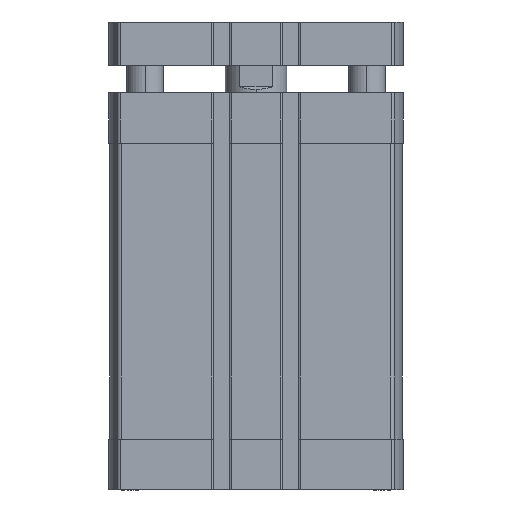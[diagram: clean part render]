
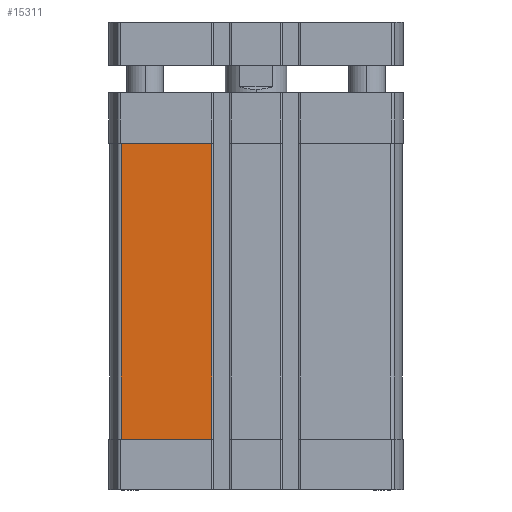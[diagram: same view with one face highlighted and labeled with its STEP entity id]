
A CAD part, front view. The second image highlights one B-rep face of the part: STEP entity #15311.
In plain terms, the highlighted planar face has unit normal (0, -1, 0) as drawn and (-1, 0, 0) by its records, which use the part's own axes.
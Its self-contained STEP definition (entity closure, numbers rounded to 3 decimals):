
#413 = DIRECTION ( 'NONE',  ( 0., 1., 0. ) ) ;
#512 = LINE ( 'NONE', #4062, #8671 ) ;
#1312 = VECTOR ( 'NONE', #8202, 1000. ) ;
#1715 = VECTOR ( 'NONE', #21620, 1000. ) ;
#1759 = CARTESIAN_POINT ( 'NONE',  ( -47.5, 14.3, -16.5 ) ) ;
#2307 = CARTESIAN_POINT ( 'NONE',  ( -47.5, 14.3, -112.5 ) ) ;
#2459 = DIRECTION ( 'NONE',  ( 0., 0., -1. ) ) ;
#3005 = CARTESIAN_POINT ( 'NONE',  ( -47.5, 43.743, -16.5 ) ) ;
#3206 = CARTESIAN_POINT ( 'NONE',  ( -47.5, 14.3, -112.5 ) ) ;
#4062 = CARTESIAN_POINT ( 'NONE',  ( -47.5, 0., -16.5 ) ) ;
#4310 = CARTESIAN_POINT ( 'NONE',  ( -47.5, 43.743, -112.5 ) ) ;
#4851 = EDGE_CURVE ( 'NONE', #7243, #17904, #6223, .T. ) ;
#5044 = LINE ( 'NONE', #4310, #22854 ) ;
#6223 = LINE ( 'NONE', #10069, #1312 ) ;
#7243 = VERTEX_POINT ( 'NONE', #8432 ) ;
#7836 = EDGE_CURVE ( 'NONE', #13901, #7243, #5044, .T. ) ;
#8202 = DIRECTION ( 'NONE',  ( 0., -1., 0. ) ) ;
#8432 = CARTESIAN_POINT ( 'NONE',  ( -47.5, 43.743, -112.5 ) ) ;
#8492 = CARTESIAN_POINT ( 'NONE',  ( -47.5, 43.743, -112.5 ) ) ;
#8671 = VECTOR ( 'NONE', #413, 1000. ) ;
#8996 = ORIENTED_EDGE ( 'NONE', *, *, #7836, .T. ) ;
#9752 = VERTEX_POINT ( 'NONE', #1759 ) ;
#9914 = AXIS2_PLACEMENT_3D ( 'NONE', #8492, #10448, #23228 ) ;
#10069 = CARTESIAN_POINT ( 'NONE',  ( -47.5, 43.743, -112.5 ) ) ;
#10448 = DIRECTION ( 'NONE',  ( -1., 0., 0. ) ) ;
#11555 = LINE ( 'NONE', #3206, #1715 ) ;
#13901 = VERTEX_POINT ( 'NONE', #3005 ) ;
#15311 = ADVANCED_FACE ( 'NONE', ( #18316 ), #21365, .T. ) ;
#15450 = EDGE_LOOP ( 'NONE', ( #21895, #17845, #20646, #8996 ) ) ;
#17845 = ORIENTED_EDGE ( 'NONE', *, *, #19356, .T. ) ;
#17904 = VERTEX_POINT ( 'NONE', #2307 ) ;
#18316 = FACE_OUTER_BOUND ( 'NONE', #15450, .T. ) ;
#19356 = EDGE_CURVE ( 'NONE', #17904, #9752, #11555, .T. ) ;
#20646 = ORIENTED_EDGE ( 'NONE', *, *, #22081, .T. ) ;
#21365 = PLANE ( 'NONE',  #9914 ) ;
#21620 = DIRECTION ( 'NONE',  ( 0., 0., 1. ) ) ;
#21895 = ORIENTED_EDGE ( 'NONE', *, *, #4851, .T. ) ;
#22081 = EDGE_CURVE ( 'NONE', #9752, #13901, #512, .T. ) ;
#22854 = VECTOR ( 'NONE', #2459, 1000. ) ;
#23228 = DIRECTION ( 'NONE',  ( 0., 0., 1. ) ) ;
